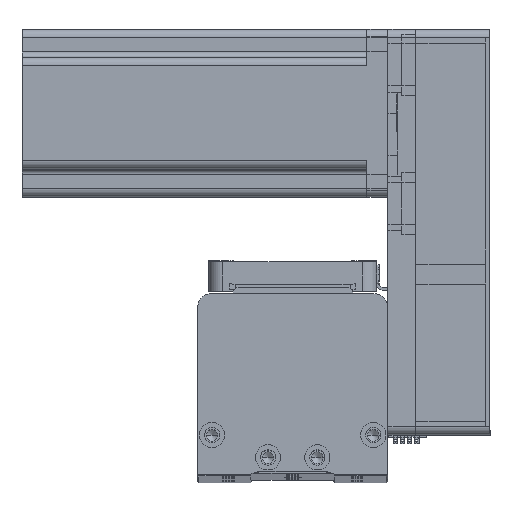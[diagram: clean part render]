
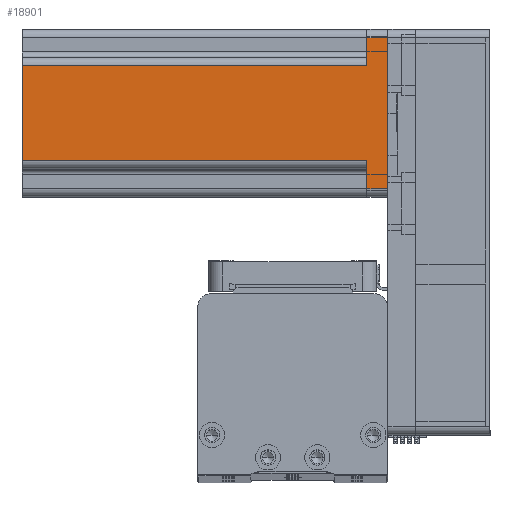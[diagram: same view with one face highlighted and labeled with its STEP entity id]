
A CAD part, top view. The second image highlights one B-rep face of the part: STEP entity #18901.
In plain terms, the highlighted planar face has unit normal (0, 0, 1) as drawn and (0, -1, 0) by its records, which use the part's own axes.
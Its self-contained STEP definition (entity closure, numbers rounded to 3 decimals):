
#339 = AXIS2_PLACEMENT_3D ( 'NONE', #41352, #17293, #45401 ) ;
#605 = CARTESIAN_POINT ( 'NONE',  ( -27., -30., 0. ) ) ;
#812 = CARTESIAN_POINT ( 'NONE',  ( 20., -30., 7.5 ) ) ;
#1321 = EDGE_CURVE ( 'NONE', #24049, #51243, #27189, .T. ) ;
#1757 = ORIENTED_EDGE ( 'NONE', *, *, #22040, .T. ) ;
#4135 = CARTESIAN_POINT ( 'NONE',  ( -27., -30., 7.5 ) ) ;
#4623 = CARTESIAN_POINT ( 'NONE',  ( 27., -30., 0. ) ) ;
#4712 = CARTESIAN_POINT ( 'NONE',  ( 30., -30., 0. ) ) ;
#5524 = VECTOR ( 'NONE', #6877, 1000. ) ;
#5655 = CARTESIAN_POINT ( 'NONE',  ( 17., -30., 7.5 ) ) ;
#6602 = DIRECTION ( 'NONE',  ( 1., 0., 0. ) ) ;
#6877 = DIRECTION ( 'NONE',  ( 0., 0., 1. ) ) ;
#7264 = LINE ( 'NONE', #48774, #16661 ) ;
#7960 = CARTESIAN_POINT ( 'NONE',  ( 27., -30., 130.7 ) ) ;
#8727 = DIRECTION ( 'NONE',  ( 0., 0., -1. ) ) ;
#11486 = ORIENTED_EDGE ( 'NONE', *, *, #50967, .T. ) ;
#12349 = VERTEX_POINT ( 'NONE', #22521 ) ;
#13002 = CARTESIAN_POINT ( 'NONE',  ( 30., -30., 130.7 ) ) ;
#15225 = VECTOR ( 'NONE', #28890, 1000. ) ;
#16652 = DIRECTION ( 'NONE',  ( 1., 0., 0. ) ) ;
#16661 = VECTOR ( 'NONE', #8727, 1000. ) ;
#17293 = DIRECTION ( 'NONE',  ( 0., 1., 0. ) ) ;
#18242 = CARTESIAN_POINT ( 'NONE',  ( -17., -30., 130.7 ) ) ;
#18446 = ORIENTED_EDGE ( 'NONE', *, *, #24160, .F. ) ;
#18659 = VERTEX_POINT ( 'NONE', #23280 ) ;
#18901 = ADVANCED_FACE ( 'NONE', ( #23077 ), #45236, .F. ) ;
#21326 = LINE ( 'NONE', #18242, #41416 ) ;
#21635 = VERTEX_POINT ( 'NONE', #4623 ) ;
#22040 = EDGE_CURVE ( 'NONE', #21635, #24049, #24012, .T. ) ;
#22521 = CARTESIAN_POINT ( 'NONE',  ( -17., -30., 130.7 ) ) ;
#22776 = VECTOR ( 'NONE', #36027, 1000. ) ;
#23077 = FACE_OUTER_BOUND ( 'NONE', #51084, .T. ) ;
#23280 = CARTESIAN_POINT ( 'NONE',  ( 17., -30., 130.7 ) ) ;
#23775 = ORIENTED_EDGE ( 'NONE', *, *, #47698, .T. ) ;
#24012 = LINE ( 'NONE', #7960, #22776 ) ;
#24049 = VERTEX_POINT ( 'NONE', #45943 ) ;
#24160 = EDGE_CURVE ( 'NONE', #30945, #38442, #24291, .T. ) ;
#24291 = LINE ( 'NONE', #34671, #35011 ) ;
#24514 = VERTEX_POINT ( 'NONE', #605 ) ;
#25088 = DIRECTION ( 'NONE',  ( 1., 0., 0. ) ) ;
#25586 = LINE ( 'NONE', #30915, #5524 ) ;
#27189 = LINE ( 'NONE', #812, #15225 ) ;
#27290 = EDGE_CURVE ( 'NONE', #51243, #18659, #25586, .T. ) ;
#28890 = DIRECTION ( 'NONE',  ( -1., 0., 0. ) ) ;
#30915 = CARTESIAN_POINT ( 'NONE',  ( 17., -30., 130.7 ) ) ;
#30945 = VERTEX_POINT ( 'NONE', #4135 ) ;
#31242 = ORIENTED_EDGE ( 'NONE', *, *, #27290, .T. ) ;
#33557 = CARTESIAN_POINT ( 'NONE',  ( -17., -30., 7.5 ) ) ;
#33577 = ORIENTED_EDGE ( 'NONE', *, *, #1321, .T. ) ;
#34671 = CARTESIAN_POINT ( 'NONE',  ( -20., -30., 7.5 ) ) ;
#35011 = VECTOR ( 'NONE', #6602, 1000. ) ;
#35762 = EDGE_CURVE ( 'NONE', #24514, #21635, #42064, .T. ) ;
#36027 = DIRECTION ( 'NONE',  ( 0., 0., 1. ) ) ;
#36718 = VECTOR ( 'NONE', #25088, 1000. ) ;
#38442 = VERTEX_POINT ( 'NONE', #33557 ) ;
#40800 = VECTOR ( 'NONE', #16652, 1000. ) ;
#41352 = CARTESIAN_POINT ( 'NONE',  ( 30., -30., 130.7 ) ) ;
#41416 = VECTOR ( 'NONE', #46364, 1000. ) ;
#42064 = LINE ( 'NONE', #4712, #40800 ) ;
#42645 = ORIENTED_EDGE ( 'NONE', *, *, #35762, .T. ) ;
#45236 = PLANE ( 'NONE',  #339 ) ;
#45307 = ORIENTED_EDGE ( 'NONE', *, *, #51111, .F. ) ;
#45401 = DIRECTION ( 'NONE',  ( -1., 0., 0. ) ) ;
#45943 = CARTESIAN_POINT ( 'NONE',  ( 27., -30., 7.5 ) ) ;
#46364 = DIRECTION ( 'NONE',  ( 0., 0., -1. ) ) ;
#47698 = EDGE_CURVE ( 'NONE', #12349, #38442, #21326, .T. ) ;
#48691 = LINE ( 'NONE', #13002, #36718 ) ;
#48774 = CARTESIAN_POINT ( 'NONE',  ( -27., -30., 130.7 ) ) ;
#50967 = EDGE_CURVE ( 'NONE', #30945, #24514, #7264, .T. ) ;
#51084 = EDGE_LOOP ( 'NONE', ( #45307, #23775, #18446, #11486, #42645, #1757, #33577, #31242 ) ) ;
#51111 = EDGE_CURVE ( 'NONE', #12349, #18659, #48691, .T. ) ;
#51243 = VERTEX_POINT ( 'NONE', #5655 ) ;
